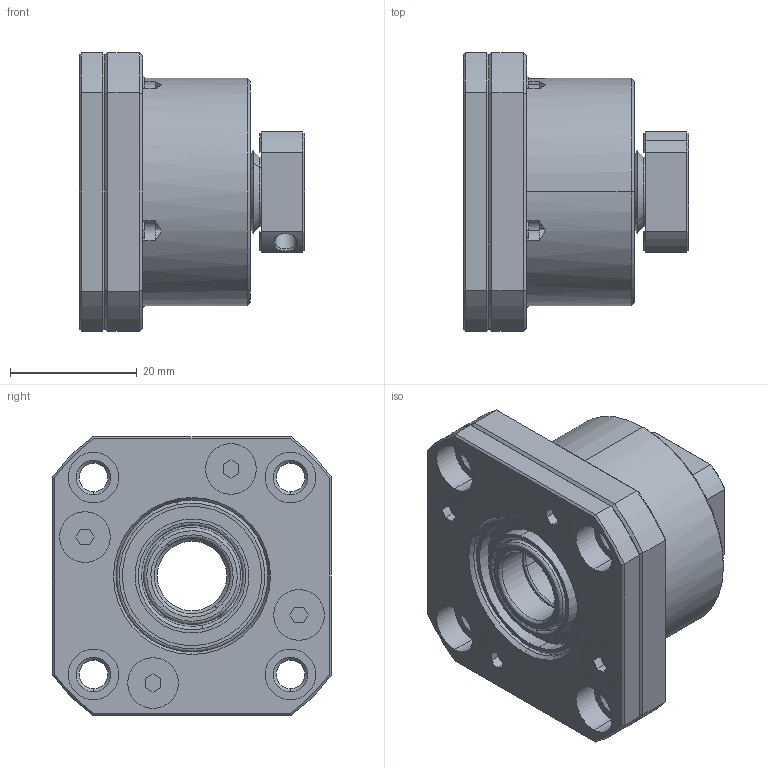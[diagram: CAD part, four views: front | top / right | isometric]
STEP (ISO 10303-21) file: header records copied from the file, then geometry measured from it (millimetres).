
FILE_DESCRIPTION (( 'STEP AP203' ), '1' );
FILE_NAME ('FK12²Õ¦XB.STEP', '2017-12-28T05:36:02', ( '' ), ( '' ), 'SwSTEP 2.0', 'SolidWorks 2017', '' );
FILE_SCHEMA (( 'CONFIG_CONTROL_DESIGN' ));
Length unit declared in the file: millimetre
Products named in the file (1): FK12組合B
Bounding box: 35.6 x 44 x 44 mm (x, y, z)
Surface area: 14039.7 mm2 (no closed solid volume)
Topology: 0 solids, 20 shells, 240 faces, 625 edges, 403 vertices
Faces by surface type: plane 83, cylinder 71, cone 64, torus 18, bspline 4
Entity records: 7955 total; most frequent: CARTESIAN_POINT 1903, DIRECTION 1328, ORIENTED_EDGE 1123, EDGE_CURVE 625, AXIS2_PLACEMENT_3D 540, VERTEX_POINT 403, CIRCLE 303, EDGE_LOOP 290
